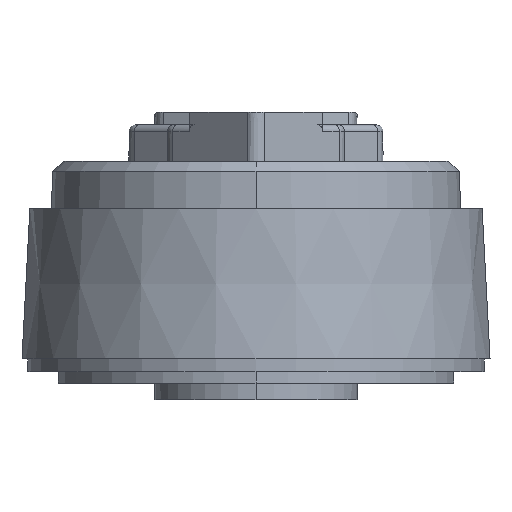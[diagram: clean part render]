
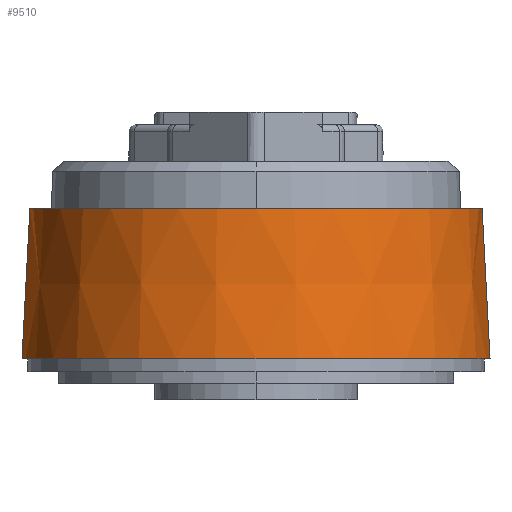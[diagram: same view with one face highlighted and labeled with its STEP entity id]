
A CAD part, left-side view. The second image highlights one B-rep face of the part: STEP entity #9510.
In plain terms, the highlighted conical face has half-angle 3 degrees and reference radius 18.248 mm.
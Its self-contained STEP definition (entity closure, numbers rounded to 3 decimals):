
#1450 = VECTOR ( 'NONE', #37289, 1000. ) ;
#4474 = AXIS2_PLACEMENT_3D ( 'NONE', #26269, #34829, #46916 ) ;
#6694 = CARTESIAN_POINT ( 'NONE',  ( -85.5, -17.684, -2.5 ) ) ;
#8462 = DIRECTION ( 'NONE',  ( 0., 0., -1. ) ) ;
#9510 = ADVANCED_FACE ( 'NONE', ( #35497 ), #16446, .T. ) ;
#10353 = EDGE_CURVE ( 'NONE', #21531, #33583, #27011, .T. ) ;
#10450 = CARTESIAN_POINT ( 'NONE',  ( -85.5, 18.3, -14.25 ) ) ;
#11900 = VECTOR ( 'NONE', #51236, 1000. ) ;
#16446 = CONICAL_SURFACE ( 'NONE', #16738, 18.248, 0.052 ) ;
#16738 = AXIS2_PLACEMENT_3D ( 'NONE', #20527, #8462, #16797 ) ;
#16797 = DIRECTION ( 'NONE',  ( 1., 0., 0. ) ) ;
#17273 = ORIENTED_EDGE ( 'NONE', *, *, #29186, .F. ) ;
#18397 = EDGE_CURVE ( 'NONE', #50879, #33583, #44308, .T. ) ;
#20391 = CARTESIAN_POINT ( 'NONE',  ( -85.5, 18.248, -13.25 ) ) ;
#20449 = CARTESIAN_POINT ( 'NONE',  ( -85.5, 17.684, -2.5 ) ) ;
#20527 = CARTESIAN_POINT ( 'NONE',  ( -85.5, 0., -13.25 ) ) ;
#21531 = VERTEX_POINT ( 'NONE', #20449 ) ;
#22281 = ORIENTED_EDGE ( 'NONE', *, *, #10353, .F. ) ;
#26269 = CARTESIAN_POINT ( 'NONE',  ( -85.5, 0., -14.25 ) ) ;
#27011 = CIRCLE ( 'NONE', #43365, 17.684 ) ;
#27911 = ORIENTED_EDGE ( 'NONE', *, *, #45773, .F. ) ;
#29186 = EDGE_CURVE ( 'NONE', #32312, #21531, #52297, .T. ) ;
#29734 = DIRECTION ( 'NONE',  ( -1., 0., 0. ) ) ;
#31150 = CIRCLE ( 'NONE', #4474, 18.3 ) ;
#32202 = CARTESIAN_POINT ( 'NONE',  ( -85.5, -18.3, -14.25 ) ) ;
#32312 = VERTEX_POINT ( 'NONE', #10450 ) ;
#33227 = EDGE_LOOP ( 'NONE', ( #22281, #17273, #27911, #49161 ) ) ;
#33583 = VERTEX_POINT ( 'NONE', #6694 ) ;
#34829 = DIRECTION ( 'NONE',  ( 0., 0., -1. ) ) ;
#35497 = FACE_OUTER_BOUND ( 'NONE', #33227, .T. ) ;
#37289 = DIRECTION ( 'NONE',  ( 0., -0.052, 0.999 ) ) ;
#41515 = CARTESIAN_POINT ( 'NONE',  ( -85.5, 0., -2.5 ) ) ;
#43365 = AXIS2_PLACEMENT_3D ( 'NONE', #41515, #45761, #29734 ) ;
#44308 = LINE ( 'NONE', #51059, #11900 ) ;
#45761 = DIRECTION ( 'NONE',  ( 0., 0., 1. ) ) ;
#45773 = EDGE_CURVE ( 'NONE', #50879, #32312, #31150, .T. ) ;
#46916 = DIRECTION ( 'NONE',  ( 1., 0., 0. ) ) ;
#49161 = ORIENTED_EDGE ( 'NONE', *, *, #18397, .T. ) ;
#50879 = VERTEX_POINT ( 'NONE', #32202 ) ;
#51059 = CARTESIAN_POINT ( 'NONE',  ( -85.5, -18.248, -13.25 ) ) ;
#51236 = DIRECTION ( 'NONE',  ( 0., 0.052, 0.999 ) ) ;
#52297 = LINE ( 'NONE', #20391, #1450 ) ;
